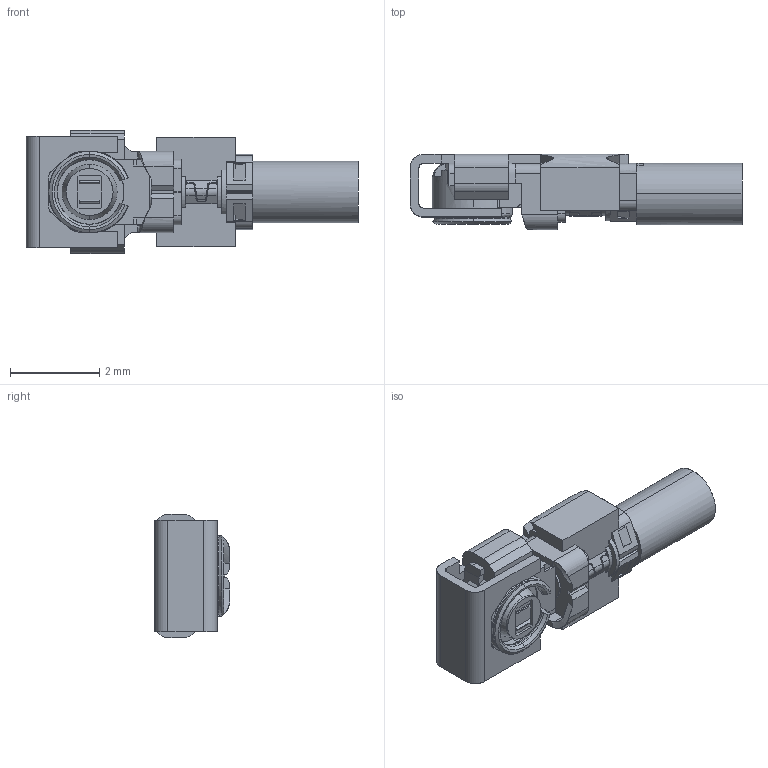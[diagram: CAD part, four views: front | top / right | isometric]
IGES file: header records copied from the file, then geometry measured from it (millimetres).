
Start section: SolidWorks IGES file using analytic representation for surfaces
Global section: file name: C:\3dwork\watanabe\20231005_WEB 3D\採弌\WEB梡3D儌僨儖\MHF 4L LK\20632-001R-37+3615-000xC (LOCK) IGES R1R4 ALL.IGS; native system: SolidWorks 2023; preprocessor: SolidWorks 2023; author: E1480; date: 231108.090905; units: millimetre
Bounding box: 7.42 x 1.68 x 2.75 mm (x, y, z)
Surface area: 73.2 mm2 (no closed solid volume)
Topology: 0 solids, 0 shells, 362 faces, 2614 edges, 2614 vertices
Faces by surface type: bspline 246, revolution 116
